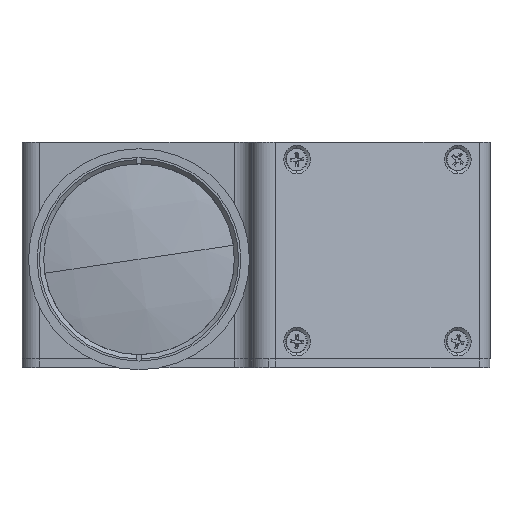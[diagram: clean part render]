
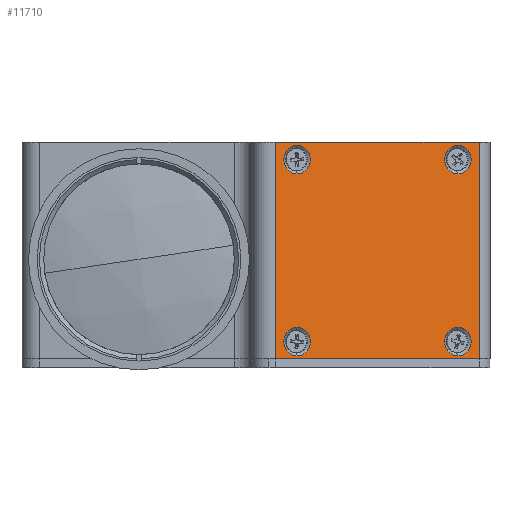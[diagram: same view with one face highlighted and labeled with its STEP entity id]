
A CAD part, left-side view. The second image highlights one B-rep face of the part: STEP entity #11710.
In plain terms, the highlighted planar face has unit normal (-0.927, -0.375, 0).
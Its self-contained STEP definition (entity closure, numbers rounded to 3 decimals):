
#37 = DIRECTION ( 'NONE',  ( 0., 0., 1. ) ) ;
#209 = CARTESIAN_POINT ( 'NONE',  ( 71.526, -84.709, -23. ) ) ;
#245 = CIRCLE ( 'NONE', #11894, 3.3 ) ;
#256 = EDGE_LOOP ( 'NONE', ( #13184, #6745 ) ) ;
#339 = VERTEX_POINT ( 'NONE', #2685 ) ;
#731 = ORIENTED_EDGE ( 'NONE', *, *, #12228, .F. ) ;
#885 = VERTEX_POINT ( 'NONE', #7373 ) ;
#942 = CARTESIAN_POINT ( 'NONE',  ( 50.035, -31.516, -23. ) ) ;
#956 = ORIENTED_EDGE ( 'NONE', *, *, #12329, .F. ) ;
#1170 = AXIS2_PLACEMENT_3D ( 'NONE', #8924, #2105, #10070 ) ;
#1476 = AXIS2_PLACEMENT_3D ( 'NONE', #10392, #3656, #11510 ) ;
#1597 = FACE_BOUND ( 'NONE', #10807, .T. ) ;
#1843 = EDGE_LOOP ( 'NONE', ( #731, #7863 ) ) ;
#2105 = DIRECTION ( 'NONE',  ( -0.927, -0.375, 0. ) ) ;
#2653 = DIRECTION ( 'NONE',  ( -0.927, -0.375, 0. ) ) ;
#2685 = CARTESIAN_POINT ( 'NONE',  ( 67.03, -73.583, -15.7 ) ) ;
#2827 = LINE ( 'NONE', #6148, #14444 ) ;
#2862 = VECTOR ( 'NONE', #9562, 1000. ) ;
#3033 = VERTEX_POINT ( 'NONE', #13223 ) ;
#3098 = ORIENTED_EDGE ( 'NONE', *, *, #10251, .T. ) ;
#3460 = VERTEX_POINT ( 'NONE', #8483 ) ;
#3559 = EDGE_CURVE ( 'NONE', #12213, #3033, #6068, .T. ) ;
#3656 = DIRECTION ( 'NONE',  ( -0.927, -0.375, 0. ) ) ;
#3781 = CARTESIAN_POINT ( 'NONE',  ( 59.669, -55.363, 2. ) ) ;
#4198 = AXIS2_PLACEMENT_3D ( 'NONE', #13292, #6582, #14421 ) ;
#4563 = ORIENTED_EDGE ( 'NONE', *, *, #11184, .F. ) ;
#4693 = CARTESIAN_POINT ( 'NONE',  ( 69.017, -78.498, 2. ) ) ;
#4717 = FACE_OUTER_BOUND ( 'NONE', #11623, .T. ) ;
#4772 = DIRECTION ( 'NONE',  ( -0.927, -0.375, 0. ) ) ;
#4859 = CIRCLE ( 'NONE', #12164, 3.3 ) ;
#5284 = ORIENTED_EDGE ( 'NONE', *, *, #11019, .T. ) ;
#5336 = CARTESIAN_POINT ( 'NONE',  ( 69.017, -78.498, -23. ) ) ;
#5401 = CARTESIAN_POINT ( 'NONE',  ( 67.03, -73.583, -19. ) ) ;
#5405 = VERTEX_POINT ( 'NONE', #5599 ) ;
#5426 = FACE_BOUND ( 'NONE', #256, .T. ) ;
#5599 = CARTESIAN_POINT ( 'NONE',  ( 67.03, -73.583, 26.3 ) ) ;
#5678 = LINE ( 'NONE', #4693, #10965 ) ;
#5803 = DIRECTION ( 'NONE',  ( 0., 0., 1. ) ) ;
#5916 = CARTESIAN_POINT ( 'NONE',  ( 67.03, -73.583, -22.3 ) ) ;
#5949 = CARTESIAN_POINT ( 'NONE',  ( 67.03, -73.583, 23. ) ) ;
#6068 = CIRCLE ( 'NONE', #4198, 3.3 ) ;
#6128 = ORIENTED_EDGE ( 'NONE', *, *, #3559, .F. ) ;
#6148 = CARTESIAN_POINT ( 'NONE',  ( 71.526, -84.709, 27. ) ) ;
#6395 = EDGE_CURVE ( 'NONE', #885, #9195, #9981, .T. ) ;
#6464 = CARTESIAN_POINT ( 'NONE',  ( 52.046, -36.495, -22.3 ) ) ;
#6507 = CARTESIAN_POINT ( 'NONE',  ( 52.046, -36.495, 23. ) ) ;
#6514 = DIRECTION ( 'NONE',  ( 0., 0., 1. ) ) ;
#6582 = DIRECTION ( 'NONE',  ( -0.927, -0.375, 0. ) ) ;
#6589 = AXIS2_PLACEMENT_3D ( 'NONE', #13640, #6918, #37 ) ;
#6745 = ORIENTED_EDGE ( 'NONE', *, *, #14242, .F. ) ;
#6778 = CIRCLE ( 'NONE', #1170, 3.3 ) ;
#6918 = DIRECTION ( 'NONE',  ( -0.927, -0.375, 0. ) ) ;
#7064 = DIRECTION ( 'NONE',  ( 0., 0., 1. ) ) ;
#7373 = CARTESIAN_POINT ( 'NONE',  ( 52.046, -36.495, 19.7 ) ) ;
#7419 = AXIS2_PLACEMENT_3D ( 'NONE', #3781, #2653, #10557 ) ;
#7506 = VERTEX_POINT ( 'NONE', #5916 ) ;
#7634 = DIRECTION ( 'NONE',  ( 0., 0., 1. ) ) ;
#7863 = ORIENTED_EDGE ( 'NONE', *, *, #6395, .F. ) ;
#7960 = ORIENTED_EDGE ( 'NONE', *, *, #11661, .F. ) ;
#8202 = CARTESIAN_POINT ( 'NONE',  ( 67.03, -73.583, 19.7 ) ) ;
#8314 = VERTEX_POINT ( 'NONE', #8202 ) ;
#8408 = LINE ( 'NONE', #209, #13635 ) ;
#8483 = CARTESIAN_POINT ( 'NONE',  ( 69.017, -78.498, 27. ) ) ;
#8924 = CARTESIAN_POINT ( 'NONE',  ( 52.046, -36.495, -19. ) ) ;
#9129 = VERTEX_POINT ( 'NONE', #5336 ) ;
#9195 = VERTEX_POINT ( 'NONE', #13336 ) ;
#9201 = CIRCLE ( 'NONE', #1476, 3.3 ) ;
#9437 = PLANE ( 'NONE',  #7419 ) ;
#9547 = DIRECTION ( 'NONE',  ( 0.375, -0.927, 0. ) ) ;
#9562 = DIRECTION ( 'NONE',  ( 0., 0., -1. ) ) ;
#9610 = CIRCLE ( 'NONE', #9618, 3.3 ) ;
#9618 = AXIS2_PLACEMENT_3D ( 'NONE', #5949, #13772, #7064 ) ;
#9981 = CIRCLE ( 'NONE', #14649, 3.3 ) ;
#10070 = DIRECTION ( 'NONE',  ( 0., 0., 1. ) ) ;
#10244 = VERTEX_POINT ( 'NONE', #11784 ) ;
#10251 = EDGE_CURVE ( 'NONE', #10244, #11450, #14475, .T. ) ;
#10392 = CARTESIAN_POINT ( 'NONE',  ( 67.03, -73.583, 23. ) ) ;
#10557 = DIRECTION ( 'NONE',  ( 0., 0., 1. ) ) ;
#10583 = CARTESIAN_POINT ( 'NONE',  ( 50.035, -31.516, 2. ) ) ;
#10687 = FACE_BOUND ( 'NONE', #13863, .T. ) ;
#10807 = EDGE_LOOP ( 'NONE', ( #956, #6128 ) ) ;
#10965 = VECTOR ( 'NONE', #5803, 1000. ) ;
#11019 = EDGE_CURVE ( 'NONE', #9129, #3460, #5678, .T. ) ;
#11184 = EDGE_CURVE ( 'NONE', #10244, #3460, #2827, .T. ) ;
#11313 = ORIENTED_EDGE ( 'NONE', *, *, #14607, .F. ) ;
#11450 = VERTEX_POINT ( 'NONE', #942 ) ;
#11501 = CARTESIAN_POINT ( 'NONE',  ( 52.046, -36.495, 23. ) ) ;
#11510 = DIRECTION ( 'NONE',  ( 0., 0., 1. ) ) ;
#11623 = EDGE_LOOP ( 'NONE', ( #7960, #5284, #4563, #3098 ) ) ;
#11661 = EDGE_CURVE ( 'NONE', #9129, #11450, #8408, .T. ) ;
#11710 = ADVANCED_FACE ( 'NONE', ( #5426, #10687, #1597, #13293, #4717 ), #9437, .T. ) ;
#11784 = CARTESIAN_POINT ( 'NONE',  ( 50.035, -31.516, 27. ) ) ;
#11817 = ORIENTED_EDGE ( 'NONE', *, *, #12494, .F. ) ;
#11894 = AXIS2_PLACEMENT_3D ( 'NONE', #5401, #13218, #6514 ) ;
#12164 = AXIS2_PLACEMENT_3D ( 'NONE', #6507, #14359, #7634 ) ;
#12213 = VERTEX_POINT ( 'NONE', #6464 ) ;
#12228 = EDGE_CURVE ( 'NONE', #9195, #885, #4859, .T. ) ;
#12329 = EDGE_CURVE ( 'NONE', #3033, #12213, #6778, .T. ) ;
#12494 = EDGE_CURVE ( 'NONE', #339, #7506, #14329, .T. ) ;
#12598 = EDGE_CURVE ( 'NONE', #5405, #8314, #9610, .T. ) ;
#12630 = DIRECTION ( 'NONE',  ( 0., 0., 1. ) ) ;
#13184 = ORIENTED_EDGE ( 'NONE', *, *, #12598, .F. ) ;
#13218 = DIRECTION ( 'NONE',  ( -0.927, -0.375, 0. ) ) ;
#13223 = CARTESIAN_POINT ( 'NONE',  ( 52.046, -36.495, -15.7 ) ) ;
#13292 = CARTESIAN_POINT ( 'NONE',  ( 52.046, -36.495, -19. ) ) ;
#13293 = FACE_BOUND ( 'NONE', #1843, .T. ) ;
#13336 = CARTESIAN_POINT ( 'NONE',  ( 52.046, -36.495, 26.3 ) ) ;
#13635 = VECTOR ( 'NONE', #13815, 1000. ) ;
#13640 = CARTESIAN_POINT ( 'NONE',  ( 67.03, -73.583, -19. ) ) ;
#13772 = DIRECTION ( 'NONE',  ( -0.927, -0.375, 0. ) ) ;
#13815 = DIRECTION ( 'NONE',  ( -0.375, 0.927, 0. ) ) ;
#13863 = EDGE_LOOP ( 'NONE', ( #11817, #11313 ) ) ;
#14242 = EDGE_CURVE ( 'NONE', #8314, #5405, #9201, .T. ) ;
#14329 = CIRCLE ( 'NONE', #6589, 3.3 ) ;
#14359 = DIRECTION ( 'NONE',  ( -0.927, -0.375, 0. ) ) ;
#14421 = DIRECTION ( 'NONE',  ( 0., 0., 1. ) ) ;
#14444 = VECTOR ( 'NONE', #9547, 1000. ) ;
#14475 = LINE ( 'NONE', #10583, #2862 ) ;
#14607 = EDGE_CURVE ( 'NONE', #7506, #339, #245, .T. ) ;
#14649 = AXIS2_PLACEMENT_3D ( 'NONE', #11501, #4772, #12630 ) ;
